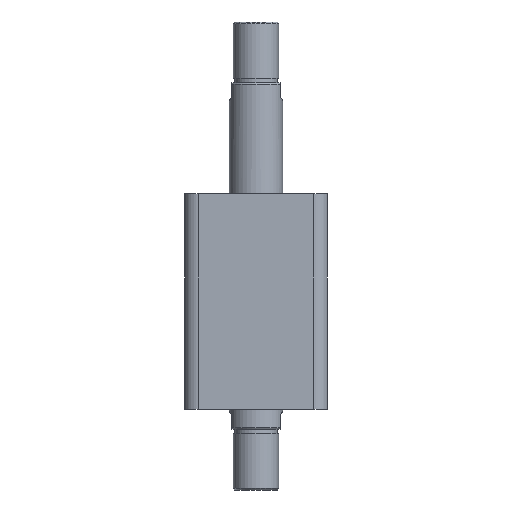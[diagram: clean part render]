
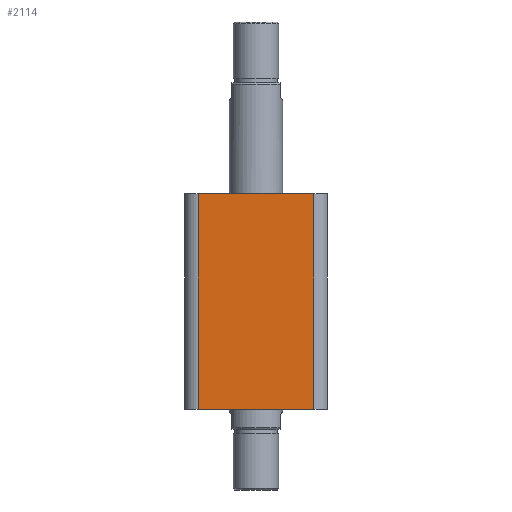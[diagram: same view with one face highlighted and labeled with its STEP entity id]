
A CAD part, front view. The second image highlights one B-rep face of the part: STEP entity #2114.
In plain terms, the highlighted planar face has unit normal (0, -1, 0).
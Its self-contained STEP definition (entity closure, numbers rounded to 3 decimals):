
#172 = EDGE_LOOP ( 'NONE', ( #688, #685, #686, #687 ) ) ;
#384 = LINE ( 'NONE', #1977, #397 ) ;
#390 = LINE ( 'NONE', #1989, #393 ) ;
#392 = LINE ( 'NONE', #1991, #395 ) ;
#393 = VECTOR ( 'NONE', #1990, 1000. ) ;
#395 = VECTOR ( 'NONE', #1993, 1000. ) ;
#396 = LINE ( 'NONE', #1995, #399 ) ;
#397 = VECTOR ( 'NONE', #1994, 1000. ) ;
#399 = VECTOR ( 'NONE', #1996, 1000. ) ;
#674 = FACE_OUTER_BOUND ( 'NONE', #172, .T. ) ;
#685 = ORIENTED_EDGE ( 'NONE', *, *, #1036, .T. ) ;
#686 = ORIENTED_EDGE ( 'NONE', *, *, #1037, .T. ) ;
#687 = ORIENTED_EDGE ( 'NONE', *, *, #1038, .T. ) ;
#688 = ORIENTED_EDGE ( 'NONE', *, *, #1035, .F. ) ;
#1035 = EDGE_CURVE ( 'NONE', #1552, #1615, #390, .T. ) ;
#1036 = EDGE_CURVE ( 'NONE', #1552, #1618, #392, .T. ) ;
#1037 = EDGE_CURVE ( 'NONE', #1618, #1622, #384, .T. ) ;
#1038 = EDGE_CURVE ( 'NONE', #1622, #1615, #396, .T. ) ;
#1383 = AXIS2_PLACEMENT_3D ( 'NONE', #3138, #3145, #3146 ) ;
#1552 = VERTEX_POINT ( 'NONE', #2863 ) ;
#1615 = VERTEX_POINT ( 'NONE', #2916 ) ;
#1618 = VERTEX_POINT ( 'NONE', #2919 ) ;
#1622 = VERTEX_POINT ( 'NONE', #2923 ) ;
#1977 = CARTESIAN_POINT ( 'NONE',  ( -47., -47., 0. ) ) ;
#1989 = CARTESIAN_POINT ( 'NONE',  ( -47., -47., 142. ) ) ;
#1990 = DIRECTION ( 'NONE',  ( 1., 0., 0. ) ) ;
#1991 = CARTESIAN_POINT ( 'NONE',  ( -38., -47., 142. ) ) ;
#1993 = DIRECTION ( 'NONE',  ( 0., 0., -1. ) ) ;
#1994 = DIRECTION ( 'NONE',  ( 1., 0., 0. ) ) ;
#1995 = CARTESIAN_POINT ( 'NONE',  ( 38., -47., 142. ) ) ;
#1996 = DIRECTION ( 'NONE',  ( 0., 0., 1. ) ) ;
#2114 = ADVANCED_FACE ( 'NONE', ( #674 ), #3144, .F. ) ;
#2863 = CARTESIAN_POINT ( 'NONE',  ( -38., -47., 142. ) ) ;
#2916 = CARTESIAN_POINT ( 'NONE',  ( 38., -47., 142. ) ) ;
#2919 = CARTESIAN_POINT ( 'NONE',  ( -38., -47., 0. ) ) ;
#2923 = CARTESIAN_POINT ( 'NONE',  ( 38., -47., 0. ) ) ;
#3138 = CARTESIAN_POINT ( 'NONE',  ( -47., -47., 142. ) ) ;
#3144 = PLANE ( 'NONE',  #1383 ) ;
#3145 = DIRECTION ( 'NONE',  ( 0., 1., 0. ) ) ;
#3146 = DIRECTION ( 'NONE',  ( 0., 0., 1. ) ) ;
